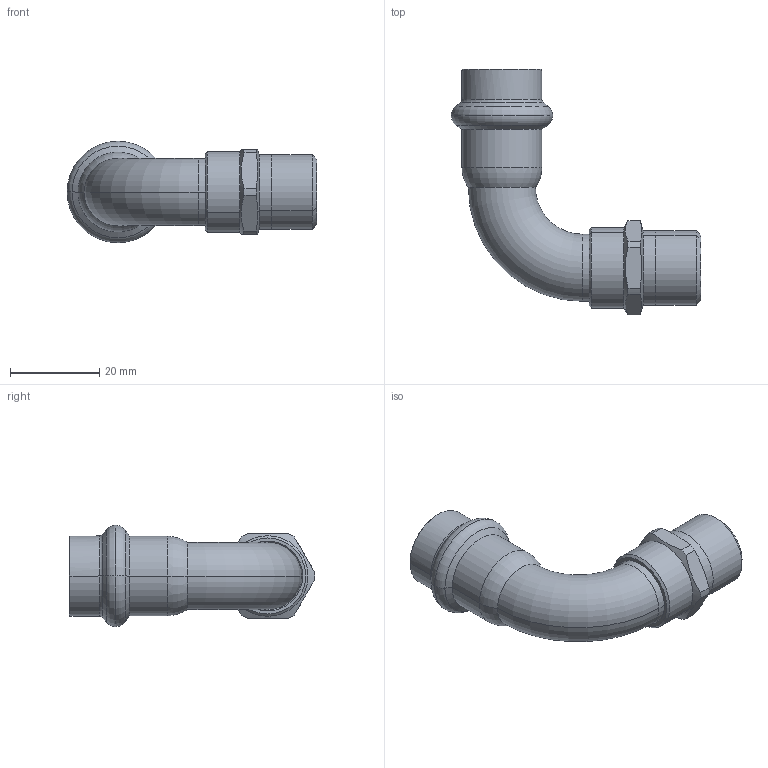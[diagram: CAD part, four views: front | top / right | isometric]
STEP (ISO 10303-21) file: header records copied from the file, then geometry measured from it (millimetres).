
FILE_DESCRIPTION(('CoCreate Modeling STEP Export'),'2;1');
FILE_NAME('8092GVW1538.stp','2013-03-05T11:19:36',(''),(''),'CoCreate Modeling STEP processor for AP214 (Solid Model)','CoCreate Modeling 17.00A 17-Jun-2010 (C) Parametric Technology GmbH','');
FILE_SCHEMA(('AUTOMOTIVE_DESIGN { 1 0 10303 214 1 1 1 1 }'));
Length unit declared in the file: millimetre
Products named in the file (2): 8092GVW1538
Assembly tree (1 placements, depth 2):
  8092GVW1538
    8092GVW1538
Bounding box: 55.85 x 54.98 x 22.69 mm (x, y, z)
Volume: 7300.1 mm3; surface area: 8357.5 mm2
Topology: 1 solids, 1 shells, 82 faces, 185 edges, 109 vertices
Faces by surface type: cylinder 32, cone 22, torus 16, plane 12
Entity records: 2531 total; most frequent: CARTESIAN_POINT 934, ORIENTED_EDGE 370, DIRECTION 262, EDGE_CURVE 185, VERTEX_POINT 109, AXIS2_PLACEMENT_3D 101, EDGE_LOOP 88, FACE_OUTER_BOUND 82
